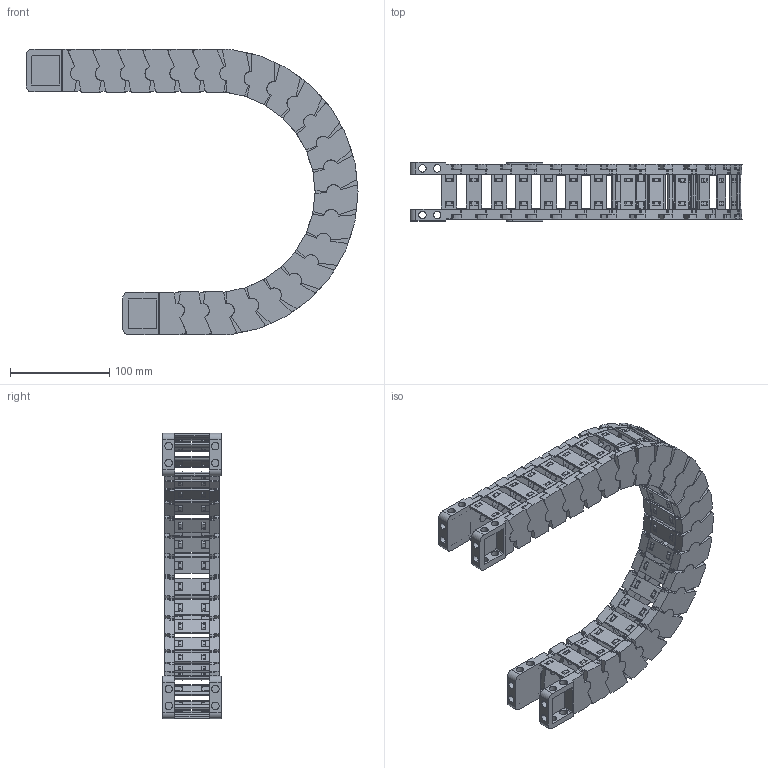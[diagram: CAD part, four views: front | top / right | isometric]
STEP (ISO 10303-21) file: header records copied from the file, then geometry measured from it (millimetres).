
FILE_DESCRIPTION((''),'2;1');
FILE_NAME('JY-35X35-R125_ASM','2023-02-08T15:33:49',('admin'),(''),'CREO PARAMETRIC BY PTC INC, 2021164','CREO PARAMETRIC BY PTC INC, 2021164','');
FILE_SCHEMA(('CONFIG_CONTROL_DESIGN','GEOMETRIC_VALIDATION_PROPERTIES_MIM'));
Length unit declared in the file: millimetre
Products named in the file (11): 35XL-L; 25-35XL-YP; 35XL-R; ASM0001_ASM; 35-LTT-A-L; 35-LTT-A-R; 35XL-LTT-A_ASM; 35-LTT-B-L; 35-LTT-B-R; 35XL-LTT-B_ASM; JY-35X35-R125_ASM
Assembly tree (36 placements, depth 3):
  JY-35X35-R125_ASM
    ASM0001_ASM  x22
      35XL-L
      25-35XL-YP
      35XL-R
    35XL-LTT-A_ASM
      35-LTT-A-L
      25-35XL-YP  x2
      35-LTT-A-R
    35XL-LTT-B_ASM
      35-LTT-B-L
      25-35XL-YP  x2
      35-LTT-B-R
Bounding box: 334.89 x 59.1 x 288.09 mm (x, y, z)
Volume: 578510.2 mm3; surface area: 349305.7 mm2
Topology: 96 solids, 96 shells, 4984 faces, 14582 edges, 9748 vertices
Faces by surface type: plane 3792, cylinder 1188, bspline 4
Entity records: 20898 total; most frequent: CARTESIAN_POINT 3249, ORIENTED_EDGE 2876, DIRECTION 2870, EDGE_CURVE 1438, VECTOR 1056, LINE 1056, VERTEX_POINT 964, AXIS2_PLACEMENT_3D 907
